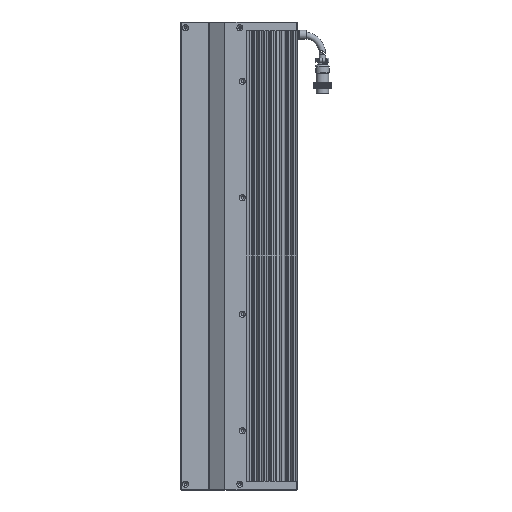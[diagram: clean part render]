
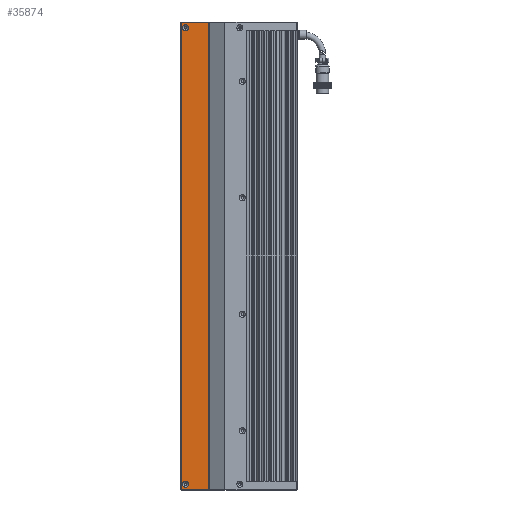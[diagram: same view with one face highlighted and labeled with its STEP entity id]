
A CAD part, left-side view. The second image highlights one B-rep face of the part: STEP entity #35874.
In plain terms, the highlighted planar face has unit normal (-1, 0, 0).
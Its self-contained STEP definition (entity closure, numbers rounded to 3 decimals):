
#4498 = CARTESIAN_POINT ( 'NONE',  ( -15.462, 21.439, 601. ) ) ;
#7421 = DIRECTION ( 'NONE',  ( 0., -1., 0. ) ) ;
#7533 = DIRECTION ( 'NONE',  ( 1., 0., 0. ) ) ;
#10564 = CARTESIAN_POINT ( 'NONE',  ( -15.462, -7.561, 120. ) ) ;
#11687 = LINE ( 'NONE', #115749, #105870 ) ;
#15063 = ORIENTED_EDGE ( 'NONE', *, *, #102372, .F. ) ;
#15492 = EDGE_CURVE ( 'NONE', #16009, #16009, #50296, .T. ) ;
#16009 = VERTEX_POINT ( 'NONE', #68456 ) ;
#17015 = AXIS2_PLACEMENT_3D ( 'NONE', #85155, #26565, #7421 ) ;
#17237 = CARTESIAN_POINT ( 'NONE',  ( -15.462, -6.987, 601. ) ) ;
#21998 = DIRECTION ( 'NONE',  ( 0., 0., -1. ) ) ;
#25459 = VERTEX_POINT ( 'NONE', #89871 ) ;
#25848 = PLANE ( 'NONE',  #51757 ) ;
#26565 = DIRECTION ( 'NONE',  ( -1., 0., 0. ) ) ;
#29348 = ORIENTED_EDGE ( 'NONE', *, *, #33581, .F. ) ;
#30334 = CARTESIAN_POINT ( 'NONE',  ( -15.462, 21.439, 599.5 ) ) ;
#33581 = EDGE_CURVE ( 'NONE', #37564, #25459, #100327, .T. ) ;
#35553 = ORIENTED_EDGE ( 'NONE', *, *, #95069, .F. ) ;
#35874 = ADVANCED_FACE ( 'NONE', ( #67197, #120219, #103605 ), #25848, .F. ) ;
#37143 = LINE ( 'NONE', #121259, #114442 ) ;
#37564 = VERTEX_POINT ( 'NONE', #40963 ) ;
#38049 = VECTOR ( 'NONE', #78496, 1000. ) ;
#40760 = LINE ( 'NONE', #30334, #87881 ) ;
#40963 = CARTESIAN_POINT ( 'NONE',  ( -15.462, -6.987, 120. ) ) ;
#42492 = CARTESIAN_POINT ( 'NONE',  ( -15.462, 16.939, 125.5 ) ) ;
#46582 = VERTEX_POINT ( 'NONE', #4498 ) ;
#48313 = VERTEX_POINT ( 'NONE', #17237 ) ;
#48920 = AXIS2_PLACEMENT_3D ( 'NONE', #42492, #51842, #62828 ) ;
#50296 = CIRCLE ( 'NONE', #48920, 3.15 ) ;
#51757 = AXIS2_PLACEMENT_3D ( 'NONE', #65736, #7533, #114477 ) ;
#51842 = DIRECTION ( 'NONE',  ( -1., 0., 0. ) ) ;
#59311 = EDGE_CURVE ( 'NONE', #25459, #46582, #40760, .T. ) ;
#62247 = EDGE_LOOP ( 'NONE', ( #109029, #29348, #116684, #35553 ) ) ;
#62828 = DIRECTION ( 'NONE',  ( 0., 0., 1. ) ) ;
#65736 = CARTESIAN_POINT ( 'NONE',  ( -15.462, -7.561, 599.5 ) ) ;
#65761 = EDGE_LOOP ( 'NONE', ( #81908 ) ) ;
#67197 = FACE_BOUND ( 'NONE', #65761, .T. ) ;
#68456 = CARTESIAN_POINT ( 'NONE',  ( -15.462, 16.939, 128.65 ) ) ;
#69188 = VERTEX_POINT ( 'NONE', #109601 ) ;
#78496 = DIRECTION ( 'NONE',  ( 0., 1., 0. ) ) ;
#81908 = ORIENTED_EDGE ( 'NONE', *, *, #15492, .F. ) ;
#85155 = CARTESIAN_POINT ( 'NONE',  ( -15.462, 16.939, 595.5 ) ) ;
#87881 = VECTOR ( 'NONE', #116855, 1000. ) ;
#89871 = CARTESIAN_POINT ( 'NONE',  ( -15.462, 21.439, 120. ) ) ;
#91474 = EDGE_CURVE ( 'NONE', #48313, #37564, #11687, .T. ) ;
#95069 = EDGE_CURVE ( 'NONE', #46582, #48313, #37143, .T. ) ;
#100327 = LINE ( 'NONE', #10564, #38049 ) ;
#102372 = EDGE_CURVE ( 'NONE', #69188, #69188, #114196, .T. ) ;
#103605 = FACE_OUTER_BOUND ( 'NONE', #62247, .T. ) ;
#105870 = VECTOR ( 'NONE', #21998, 1000. ) ;
#109029 = ORIENTED_EDGE ( 'NONE', *, *, #59311, .F. ) ;
#109601 = CARTESIAN_POINT ( 'NONE',  ( -15.462, 13.789, 595.5 ) ) ;
#114018 = EDGE_LOOP ( 'NONE', ( #15063 ) ) ;
#114196 = CIRCLE ( 'NONE', #17015, 3.15 ) ;
#114442 = VECTOR ( 'NONE', #121671, 1000. ) ;
#114477 = DIRECTION ( 'NONE',  ( 0., 0., -1. ) ) ;
#115749 = CARTESIAN_POINT ( 'NONE',  ( -15.462, -6.987, 599.5 ) ) ;
#116684 = ORIENTED_EDGE ( 'NONE', *, *, #91474, .F. ) ;
#116855 = DIRECTION ( 'NONE',  ( 0., 0., 1. ) ) ;
#120219 = FACE_BOUND ( 'NONE', #114018, .T. ) ;
#121259 = CARTESIAN_POINT ( 'NONE',  ( -15.462, -7.561, 601. ) ) ;
#121671 = DIRECTION ( 'NONE',  ( 0., -1., 0. ) ) ;
